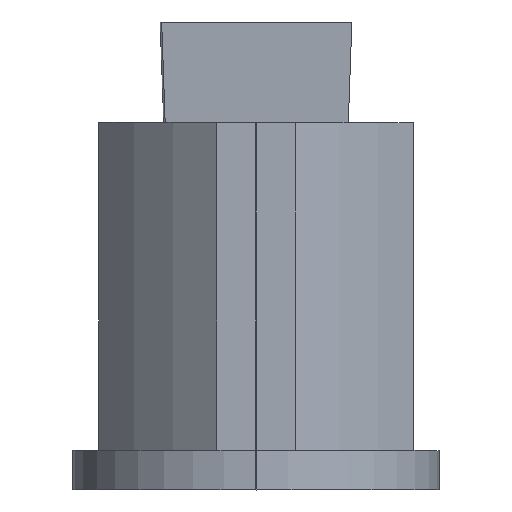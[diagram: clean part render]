
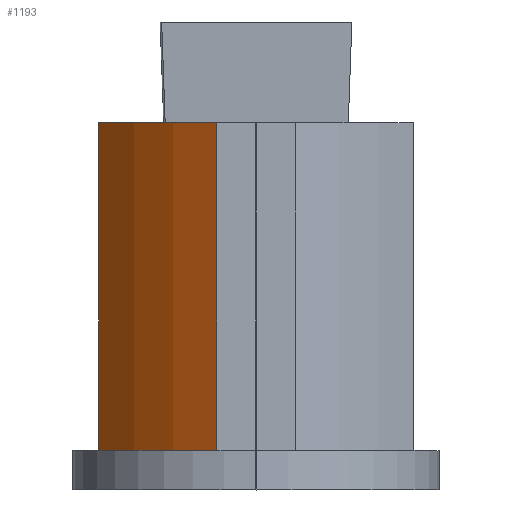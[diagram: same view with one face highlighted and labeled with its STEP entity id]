
A CAD part, left-side view. The second image highlights one B-rep face of the part: STEP entity #1193.
In plain terms, the highlighted cylindrical face has radius 35.547 mm (diameter 71.093 mm), a partial arc.
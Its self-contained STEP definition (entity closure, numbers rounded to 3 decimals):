
#28 = CARTESIAN_POINT ( 'NONE',  ( -13.152, -2.248, 28. ) ) ;
#75 = AXIS2_PLACEMENT_3D ( 'NONE', #941, #257, #1047 ) ;
#80 = VERTEX_POINT ( 'NONE', #102 ) ;
#86 = AXIS2_PLACEMENT_3D ( 'NONE', #1275, #713, #259 ) ;
#102 = CARTESIAN_POINT ( 'NONE',  ( -21.652, -11.248, 28. ) ) ;
#116 = CARTESIAN_POINT ( 'NONE',  ( -21.652, -11.248, 3. ) ) ;
#125 = CARTESIAN_POINT ( 'NONE',  ( -13.152, -2.248, 28. ) ) ;
#132 = VERTEX_POINT ( 'NONE', #116 ) ;
#209 = VERTEX_POINT ( 'NONE', #453 ) ;
#257 = DIRECTION ( 'NONE',  ( 0., 0., 1. ) ) ;
#259 = DIRECTION ( 'NONE',  ( -1., 0., 0. ) ) ;
#306 = VECTOR ( 'NONE', #682, 1000. ) ;
#341 = CARTESIAN_POINT ( 'NONE',  ( -21.652, -11.248, 28. ) ) ;
#412 = EDGE_CURVE ( 'NONE', #80, #132, #428, .T. ) ;
#423 = VECTOR ( 'NONE', #936, 1000. ) ;
#428 = LINE ( 'NONE', #341, #306 ) ;
#453 = CARTESIAN_POINT ( 'NONE',  ( -13.152, -2.248, 3. ) ) ;
#526 = DIRECTION ( 'NONE',  ( 0., 0., 1. ) ) ;
#543 = ORIENTED_EDGE ( 'NONE', *, *, #1123, .T. ) ;
#682 = DIRECTION ( 'NONE',  ( 0., 0., -1. ) ) ;
#694 = VERTEX_POINT ( 'NONE', #125 ) ;
#701 = ORIENTED_EDGE ( 'NONE', *, *, #1064, .T. ) ;
#713 = DIRECTION ( 'NONE',  ( 0., 0., -1. ) ) ;
#731 = LINE ( 'NONE', #28, #423 ) ;
#775 = CIRCLE ( 'NONE', #75, 35.547 ) ;
#788 = EDGE_CURVE ( 'NONE', #694, #80, #775, .T. ) ;
#846 = ORIENTED_EDGE ( 'NONE', *, *, #788, .F. ) ;
#936 = DIRECTION ( 'NONE',  ( 0., 0., -1. ) ) ;
#941 = CARTESIAN_POINT ( 'NONE',  ( 8.047, -30.782, 28. ) ) ;
#956 = AXIS2_PLACEMENT_3D ( 'NONE', #1211, #526, #1307 ) ;
#967 = FACE_OUTER_BOUND ( 'NONE', #1203, .T. ) ;
#1047 = DIRECTION ( 'NONE',  ( 1., 0., 0. ) ) ;
#1064 = EDGE_CURVE ( 'NONE', #209, #132, #1357, .T. ) ;
#1123 = EDGE_CURVE ( 'NONE', #694, #209, #731, .T. ) ;
#1193 = ADVANCED_FACE ( 'NONE', ( #967 ), #1225, .T. ) ;
#1203 = EDGE_LOOP ( 'NONE', ( #701, #1282, #846, #543 ) ) ;
#1211 = CARTESIAN_POINT ( 'NONE',  ( 8.047, -30.782, 3. ) ) ;
#1225 = CYLINDRICAL_SURFACE ( 'NONE', #86, 35.547 ) ;
#1275 = CARTESIAN_POINT ( 'NONE',  ( 8.047, -30.782, 28. ) ) ;
#1282 = ORIENTED_EDGE ( 'NONE', *, *, #412, .F. ) ;
#1307 = DIRECTION ( 'NONE',  ( 1., 0., 0. ) ) ;
#1357 = CIRCLE ( 'NONE', #956, 35.547 ) ;
